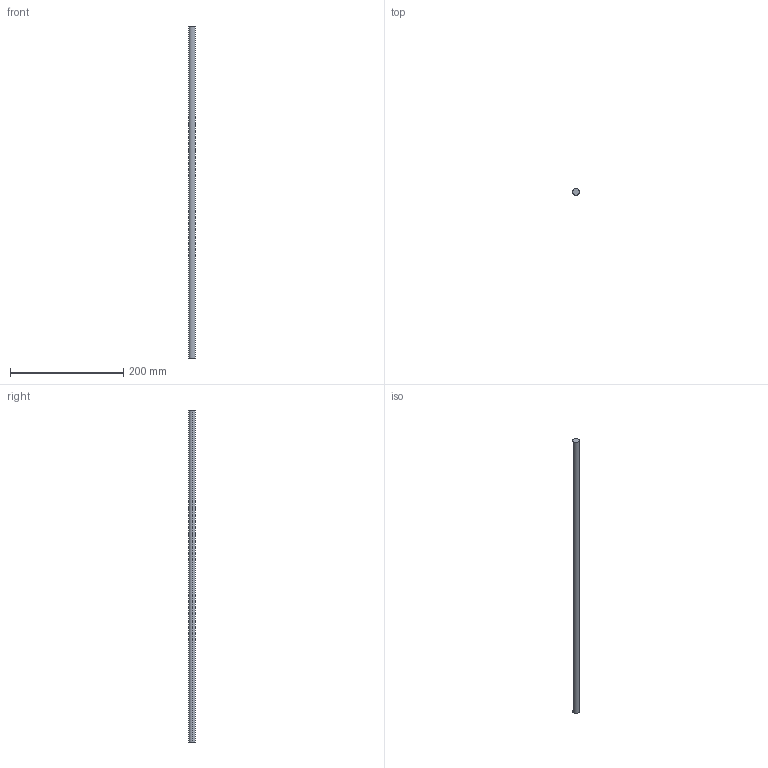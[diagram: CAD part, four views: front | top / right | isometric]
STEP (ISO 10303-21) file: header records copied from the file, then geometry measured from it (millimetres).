
FILE_DESCRIPTION (( 'STEP AP214' ), '1' );
FILE_NAME ('Innenschub H182 - S16_S17 - 700.step', '2010-09-07T14:55:58', ( 'grass' ), ( '' ), 'SwSTEP 2.0', 'SolidWorks 2010', '' );
FILE_SCHEMA (( 'AUTOMOTIVE_DESIGN' ));
Length unit declared in the file: millimetre
Products named in the file (1): Innenschub H182 - S16_S17 - 700
Bounding box: 12 x 12 x 587 mm (x, y, z)
Volume: 66388.1 mm3; surface area: 22355.6 mm2
Topology: 1 solids, 1 shells, 4 faces, 6 edges, 4 vertices
Faces by surface type: cylinder 2, plane 2
Entity records: 128 total; most frequent: DIRECTION 20, CARTESIAN_POINT 15, ORIENTED_EDGE 12, AXIS2_PLACEMENT_3D 9, EDGE_CURVE 6, ADVANCED_FACE 4, FACE_OUTER_BOUND 4, EDGE_LOOP 4
